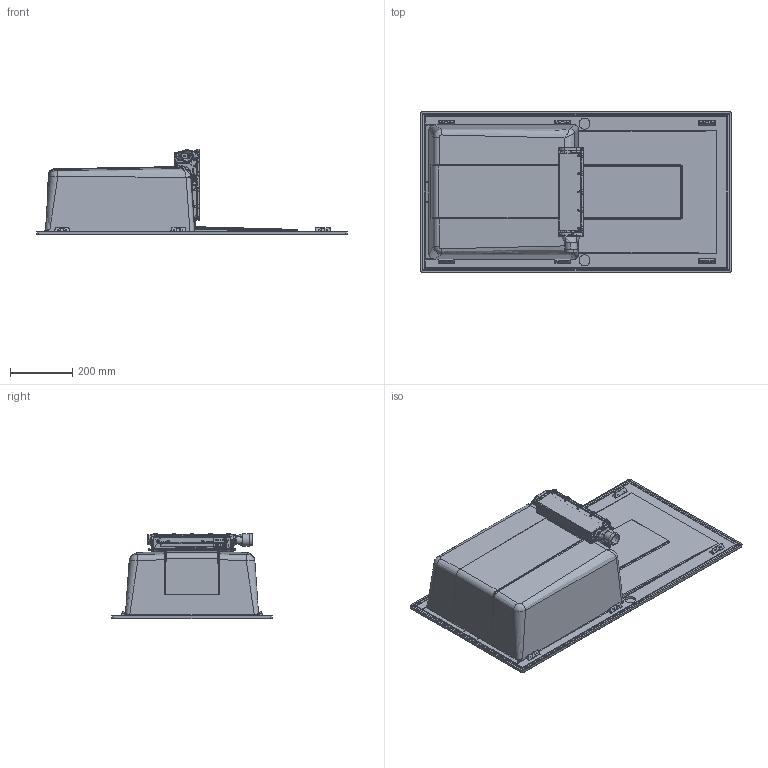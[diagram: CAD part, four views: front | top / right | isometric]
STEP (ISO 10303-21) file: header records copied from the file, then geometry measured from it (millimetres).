
FILE_DESCRIPTION (( 'STEP AP203' ), '1' );
FILE_NAME ('3d_smart_480.STEP', '2021-06-17T14:43:30', ( '' ), ( '' ), 'SwSTEP 2.0', 'SolidWorks 2020', '' );
FILE_SCHEMA (( 'CONFIG_CONTROL_DESIGN' ));
Length unit declared in the file: millimetre
Products named in the file (5): TP_Patent Elleci_borchie; 20180220 06266_neutro; 20180220 06265; 3d_smart_480; SMART480
Assembly tree (4 placements, depth 3):
  3d_smart_480
    SMART480
    TP_Patent Elleci_borchie
      20180220 06265
      20180220 06266_neutro
Bounding box: 1001.4 x 516.4 x 276.74 mm (x, y, z)
Volume: 7393479.2 mm3; surface area: 2182967.3 mm2
Topology: 11 solids, 11 shells, 5696 faces, 14811 edges, 9423 vertices
Faces by surface type: plane 2518, bspline 1555, cylinder 1296, cone 197, sphere 75, torus 55
Entity records: 257103 total; most frequent: CARTESIAN_POINT 134039, ORIENTED_EDGE 29356, DIRECTION 18492, EDGE_CURVE 14678, VERTEX_POINT 9423, LINE 6976, VECTOR 6976, EDGE_LOOP 6251
